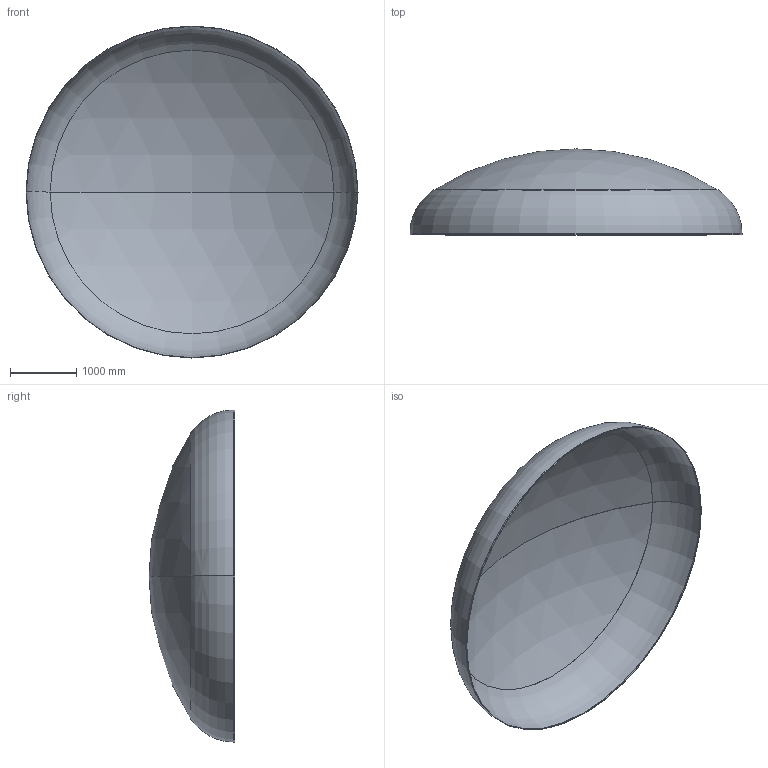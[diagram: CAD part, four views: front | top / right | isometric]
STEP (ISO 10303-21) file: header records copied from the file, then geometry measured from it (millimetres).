
FILE_DESCRIPTION (( 'STEP AP203' ), '1' );
FILE_NAME ('DIN 28013 Korbbogenform_-_Boden DIN 28013 - 5000 x 20 - I - s=5.step', '2016-07-01T23:59:53', ( '' ), ( '' ), 'SwSTEP 2.0', 'SolidWorks 2013', '' );
FILE_SCHEMA (( 'CONFIG_CONTROL_DESIGN' ));
Length unit declared in the file: millimetre
Products named in the file (1): DIN 28013 Korbbogenform_-_Boden DIN 28013 - 5000 x 20 - I - s=5
Bounding box: 5000 x 1294.2 x 5000 mm (x, y, z)
Volume: 137375928.8 mm3; surface area: 55028862.2 mm2
Topology: 1 solids, 1 shells, 13 faces, 24 edges, 14 vertices
Faces by surface type: torus 4, cylinder 4, sphere 4, plane 1
Entity records: 407 total; most frequent: DIRECTION 72, CARTESIAN_POINT 52, ORIENTED_EDGE 48, AXIS2_PLACEMENT_3D 34, EDGE_CURVE 24, CIRCLE 20, EDGE_LOOP 14, VERTEX_POINT 14
